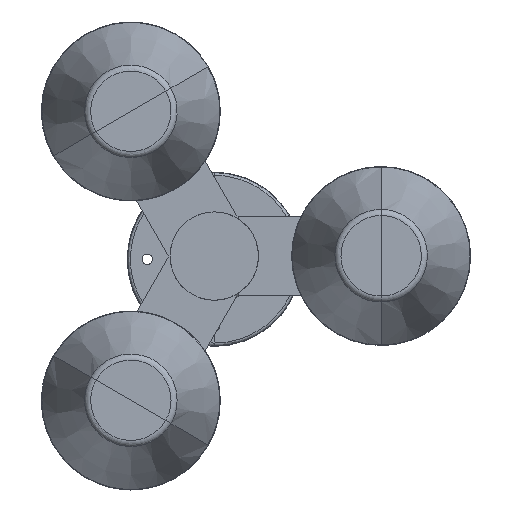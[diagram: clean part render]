
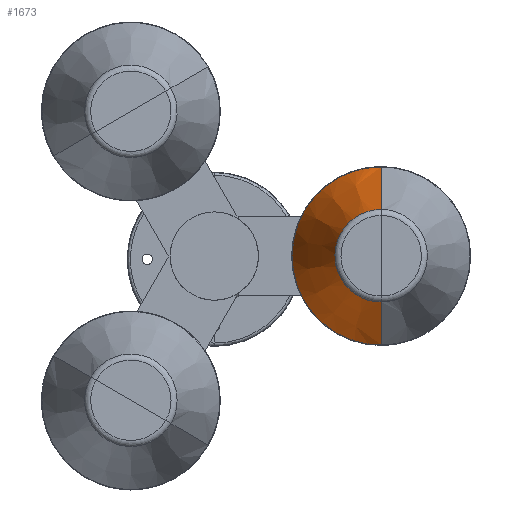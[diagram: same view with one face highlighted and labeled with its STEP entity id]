
A CAD part, top view. The second image highlights one B-rep face of the part: STEP entity #1673.
In plain terms, the highlighted conical face has half-angle 19.263 degrees and reference radius 90.056 mm.
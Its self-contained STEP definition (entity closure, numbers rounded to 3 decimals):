
#35=CONICAL_SURFACE('',#1880,90.056,0.336);
#49=B_SPLINE_CURVE_WITH_KNOTS('',3,(#3220,#3221,#3222,#3223,#3224,#3225,
#3226,#3227,#3228,#3229),.UNSPECIFIED.,.F.,.F.,(4,1,1,1,1,1,1,4),(0.,0.143,
0.286,0.429,0.571,0.714,
0.857,1.),.UNSPECIFIED.);
#51=B_SPLINE_CURVE_WITH_KNOTS('',3,(#3248,#3249,#3250,#3251,#3252,#3253,
#3254,#3255,#3256,#3257,#3258,#3259),.UNSPECIFIED.,.F.,.F.,(4,1,1,1,1,1,
1,1,1,4),(0.,0.111,0.222,0.333,0.444,
0.556,0.667,0.778,0.889,
1.),.UNSPECIFIED.);
#216=FACE_OUTER_BOUND('',#330,.T.);
#330=EDGE_LOOP('',(#1474,#1475,#1476,#1477));
#439=LINE('',#3245,#542);
#440=LINE('',#3246,#543);
#542=VECTOR('',#2378,304.8);
#543=VECTOR('',#2379,304.8);
#803=VERTEX_POINT('',#3073);
#804=VERTEX_POINT('',#3074);
#805=VERTEX_POINT('',#3231);
#806=VERTEX_POINT('',#3232);
#1028=EDGE_CURVE('',#804,#803,#49,.T.);
#1030=EDGE_CURVE('',#803,#805,#439,.T.);
#1031=EDGE_CURVE('',#806,#804,#440,.T.);
#1032=EDGE_CURVE('',#806,#805,#51,.T.);
#1474=ORIENTED_EDGE('',*,*,#1032,.F.);
#1475=ORIENTED_EDGE('',*,*,#1031,.T.);
#1476=ORIENTED_EDGE('',*,*,#1028,.T.);
#1477=ORIENTED_EDGE('',*,*,#1030,.T.);
#1673=ADVANCED_FACE('',(#216),#35,.T.);
#1880=AXIS2_PLACEMENT_3D('',#3247,#2380,#2381);
#2378=DIRECTION('',(0.,0.33,-0.944));
#2379=DIRECTION('',(0.,0.33,0.944));
#2380=DIRECTION('center_axis',(0.,0.,
-1.));
#2381=DIRECTION('ref_axis',(-0.588,0.809,0.));
#3073=CARTESIAN_POINT('',(0.,49.205,157.608));
#3074=CARTESIAN_POINT('',(0.,-49.205,157.608));
#3220=CARTESIAN_POINT('Ctrl Pts',(0.,-49.205,
157.608));
#3221=CARTESIAN_POINT('Ctrl Pts',(-7.411,-49.312,157.608));
#3222=CARTESIAN_POINT('Ctrl Pts',(-22.054,-45.795,157.608));
#3223=CARTESIAN_POINT('Ctrl Pts',(-39.789,-31.74,157.608));
#3224=CARTESIAN_POINT('Ctrl Pts',(-49.607,-11.318,157.608));
#3225=CARTESIAN_POINT('Ctrl Pts',(-49.607,11.318,157.608));
#3226=CARTESIAN_POINT('Ctrl Pts',(-39.789,31.74,157.608));
#3227=CARTESIAN_POINT('Ctrl Pts',(-22.054,45.795,157.608));
#3228=CARTESIAN_POINT('Ctrl Pts',(-7.411,49.312,157.608));
#3229=CARTESIAN_POINT('Ctrl Pts',(0.,49.205,
157.608));
#3231=CARTESIAN_POINT('',(0.,94.595,27.724));
#3232=CARTESIAN_POINT('',(0.,-94.595,27.724));
#3245=CARTESIAN_POINT('',(0.,49.205,157.608));
#3246=CARTESIAN_POINT('',(0.,-94.595,27.724));
#3247=CARTESIAN_POINT('Origin',(0.,0.,40.713));
#3248=CARTESIAN_POINT('Ctrl Pts',(0.,-94.595,
27.724));
#3249=CARTESIAN_POINT('Ctrl Pts',(-11.035,-94.674,27.724));
#3250=CARTESIAN_POINT('Ctrl Pts',(-33.004,-90.678,27.724));
#3251=CARTESIAN_POINT('Ctrl Pts',(-62.056,-73.961,27.724));
#3252=CARTESIAN_POINT('Ctrl Pts',(-83.602,-48.265,27.724));
#3253=CARTESIAN_POINT('Ctrl Pts',(-95.07,-16.764,27.724));
#3254=CARTESIAN_POINT('Ctrl Pts',(-95.07,16.764,27.724));
#3255=CARTESIAN_POINT('Ctrl Pts',(-83.602,48.265,27.724));
#3256=CARTESIAN_POINT('Ctrl Pts',(-62.056,73.961,27.724));
#3257=CARTESIAN_POINT('Ctrl Pts',(-33.004,90.678,27.724));
#3258=CARTESIAN_POINT('Ctrl Pts',(-11.035,94.674,27.724));
#3259=CARTESIAN_POINT('Ctrl Pts',(0.,94.595,
27.724));
